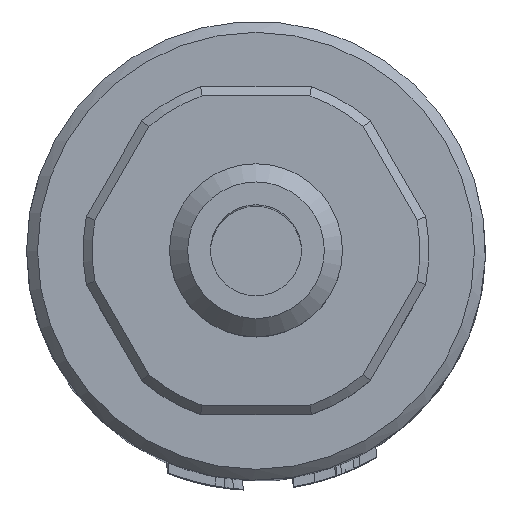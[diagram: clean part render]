
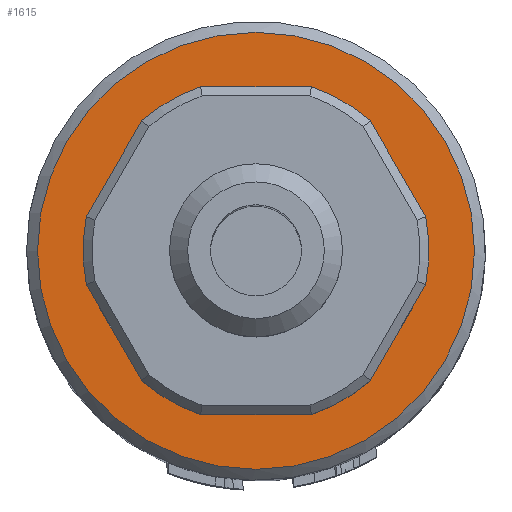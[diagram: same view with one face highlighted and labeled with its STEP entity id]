
A CAD part, top view. The second image highlights one B-rep face of the part: STEP entity #1615.
In plain terms, the highlighted planar face has unit normal (0, 0, 1).
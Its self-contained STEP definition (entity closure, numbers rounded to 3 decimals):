
#137=FACE_BOUND('',#3027,.T.);
#138=FACE_BOUND('',#3028,.T.);
#233=CIRCLE('',#11111,6.);
#234=CIRCLE('',#11112,12.);
#1615=ADVANCED_FACE('',(#137,#138),#1969,.F.);
#1969=PLANE('',#11113);
#3027=EDGE_LOOP('',(#5408));
#3028=EDGE_LOOP('',(#5409));
#5408=ORIENTED_EDGE('',*,*,#8858,.T.);
#5409=ORIENTED_EDGE('',*,*,#8859,.F.);
#7376=VERTEX_POINT('',#21395);
#7377=VERTEX_POINT('',#21397);
#8858=EDGE_CURVE('',#7376,#7376,#233,.T.);
#8859=EDGE_CURVE('',#7377,#7377,#234,.T.);
#11111=AXIS2_PLACEMENT_3D('',#21394,#12205,#12206);
#11112=AXIS2_PLACEMENT_3D('',#21396,#12207,#12208);
#11113=AXIS2_PLACEMENT_3D('',#21398,#12209,#12210);
#12205=DIRECTION('',(0.,0.,-1.));
#12206=DIRECTION('',(-1.,0.,0.));
#12207=DIRECTION('',(0.,0.,-1.));
#12208=DIRECTION('',(-1.,0.,0.));
#12209=DIRECTION('',(0.,0.,-1.));
#12210=DIRECTION('',(1.,0.,0.));
#21394=CARTESIAN_POINT('',(0.,0.,37.));
#21395=CARTESIAN_POINT('',(-6.,0.,37.));
#21396=CARTESIAN_POINT('',(0.,0.,37.));
#21397=CARTESIAN_POINT('',(-12.,0.,37.));
#21398=CARTESIAN_POINT('',(0.,0.,37.));
